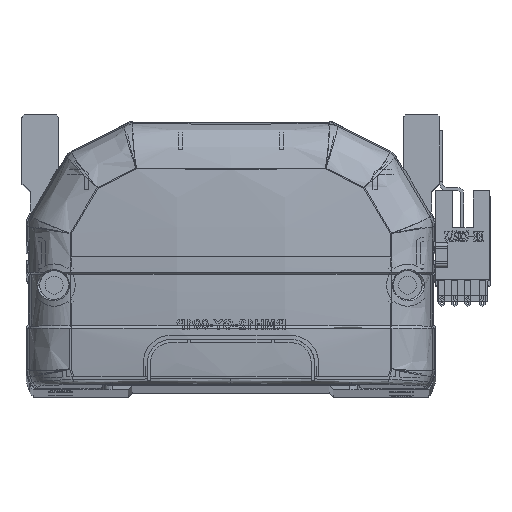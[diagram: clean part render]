
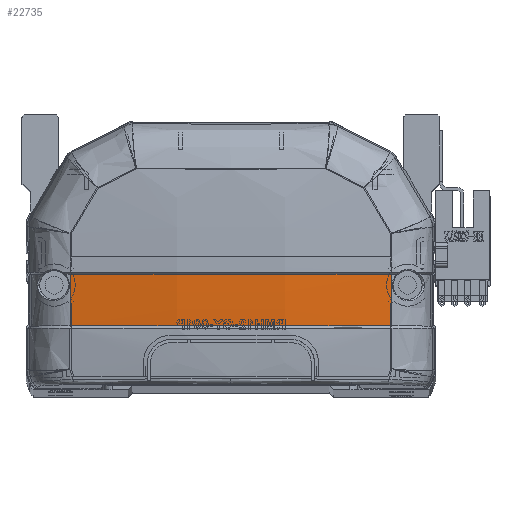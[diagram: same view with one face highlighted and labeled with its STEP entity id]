
A CAD part, top view. The second image highlights one B-rep face of the part: STEP entity #22735.
In plain terms, the highlighted free-form (B-spline) face has degree [3, 3] with [4, 4] control points.
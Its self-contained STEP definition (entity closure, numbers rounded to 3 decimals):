
#1398 = CARTESIAN_POINT ( 'NONE',  ( -39.966, 24.412, -6.306 ) ) ;
#1503 = CARTESIAN_POINT ( 'NONE',  ( 26.761, 15.83, -7.945 ) ) ;
#1705 = CARTESIAN_POINT ( 'NONE',  ( -13.598, 15.499, -10.032 ) ) ;
#1906 = CARTESIAN_POINT ( 'NONE',  ( 40.461, 15.757, -5.8 ) ) ;
#2100 = CARTESIAN_POINT ( 'NONE',  ( 40.461, 20.111, -6.066 ) ) ;
#2308 = CARTESIAN_POINT ( 'NONE',  ( 26.749, 28.706, -8.432 ) ) ;
#2479 = CARTESIAN_POINT ( 'NONE',  ( -33.365, 15.83, -6.848 ) ) ;
#2792 = ORIENTED_EDGE ( 'NONE', *, *, #7761, .T. ) ;
#5495 = VERTEX_POINT ( 'NONE', #23640 ) ;
#6283 = CARTESIAN_POINT ( 'NONE',  ( 13.598, 28.769, -10.535 ) ) ;
#6499 = CARTESIAN_POINT ( 'NONE',  ( -39.963, 28.706, -6.372 ) ) ;
#7075 = CARTESIAN_POINT ( 'NONE',  ( -23.389, 15.83, -7.947 ) ) ;
#7761 = EDGE_CURVE ( 'NONE', #5495, #50840, #17015, .T. ) ;
#7778 = CARTESIAN_POINT ( 'NONE',  ( 39.966, 24.413, -6.306 ) ) ;
#8843 = B_SPLINE_CURVE_WITH_KNOTS ( 'NONE', 3,
 ( #39260, #1503, #48559, #39668, #26291, #7075, #53809, #2479, #20810, #39468 ),
 .UNSPECIFIED., .F., .F.,
 ( 4, 2, 2, 2, 4 ),
 ( 0., 0.04, 0.06, 0.07, 0.08 ),
 .UNSPECIFIED. ) ;
#9646 = B_SPLINE_CURVE_WITH_KNOTS ( 'NONE', 3,
 ( #12233, #31404, #7778, #54103 ),
 .UNSPECIFIED., .F., .F.,
 ( 4, 4 ),
 ( 0., 1. ),
 .UNSPECIFIED. ) ;
#12114 = VERTEX_POINT ( 'NONE', #30049 ) ;
#12233 = CARTESIAN_POINT ( 'NONE',  ( 39.985, 15.83, -5.879 ) ) ;
#16456 = CARTESIAN_POINT ( 'NONE',  ( 13.598, 19.918, -10.302 ) ) ;
#17015 = B_SPLINE_CURVE_WITH_KNOTS ( 'NONE', 3,
 ( #19710, #1398, #47460, #19902 ),
 .UNSPECIFIED., .F., .F.,
 ( 4, 4 ),
 ( 0., 1. ),
 .UNSPECIFIED. ) ;
#17256 = ORIENTED_EDGE ( 'NONE', *, *, #34596, .T. ) ;
#19710 = CARTESIAN_POINT ( 'NONE',  ( -39.963, 28.706, -6.372 ) ) ;
#19902 = CARTESIAN_POINT ( 'NONE',  ( -39.985, 15.83, -5.879 ) ) ;
#20810 = CARTESIAN_POINT ( 'NONE',  ( -36.679, 15.83, -6.395 ) ) ;
#20821 = CARTESIAN_POINT ( 'NONE',  ( -13.598, 24.342, -10.47 ) ) ;
#22735 = ADVANCED_FACE ( 'NONE', ( #31101 ), #43789, .F. ) ;
#23473 = EDGE_LOOP ( 'NONE', ( #17256, #45405, #2792, #25475 ) ) ;
#23640 = CARTESIAN_POINT ( 'NONE',  ( -39.963, 28.706, -6.372 ) ) ;
#25295 = CARTESIAN_POINT ( 'NONE',  ( -40.461, 20.111, -6.066 ) ) ;
#25412 = CARTESIAN_POINT ( 'NONE',  ( 39.985, 15.83, -5.879 ) ) ;
#25475 = ORIENTED_EDGE ( 'NONE', *, *, #57704, .F. ) ;
#26291 = CARTESIAN_POINT ( 'NONE',  ( -13.384, 15.83, -8.724 ) ) ;
#28487 = VERTEX_POINT ( 'NONE', #25412 ) ;
#29941 = CARTESIAN_POINT ( 'NONE',  ( 13.375, 28.707, -9.468 ) ) ;
#30049 = CARTESIAN_POINT ( 'NONE',  ( 39.963, 28.706, -6.372 ) ) ;
#30137 = CARTESIAN_POINT ( 'NONE',  ( -40.461, 28.832, -6.296 ) ) ;
#31101 = FACE_OUTER_BOUND ( 'NONE', #23473, .T. ) ;
#31404 = CARTESIAN_POINT ( 'NONE',  ( 39.973, 20.12, -6.142 ) ) ;
#34081 = CARTESIAN_POINT ( 'NONE',  ( -39.985, 15.83, -5.879 ) ) ;
#34390 = CARTESIAN_POINT ( 'NONE',  ( 40.461, 24.47, -6.231 ) ) ;
#34596 = EDGE_CURVE ( 'NONE', #28487, #12114, #9646, .T. ) ;
#38664 = CARTESIAN_POINT ( 'NONE',  ( -40.461, 24.47, -6.231 ) ) ;
#38864 = CARTESIAN_POINT ( 'NONE',  ( 13.598, 15.499, -10.032 ) ) ;
#39066 = CARTESIAN_POINT ( 'NONE',  ( -40.461, 15.757, -5.8 ) ) ;
#39076 = CARTESIAN_POINT ( 'NONE',  ( -13.373, 28.707, -9.468 ) ) ;
#39260 = CARTESIAN_POINT ( 'NONE',  ( 39.985, 15.83, -5.879 ) ) ;
#39468 = CARTESIAN_POINT ( 'NONE',  ( -39.985, 15.83, -5.879 ) ) ;
#39668 = CARTESIAN_POINT ( 'NONE',  ( -6.692, 15.83, -8.984 ) ) ;
#43789 =( BOUNDED_SURFACE ( )  B_SPLINE_SURFACE ( 3, 3, ( 
 ( #1906, #2100, #34390, #53014 ),
 ( #38864, #16456, #57074, #6283 ),
 ( #1705, #48178, #20821, #53219 ),
 ( #39066, #25295, #38664, #30137 ) ),
 .UNSPECIFIED., .F., .F., .F. ) 
 B_SPLINE_SURFACE_WITH_KNOTS ( ( 4, 4 ),
 ( 4, 4 ),
 ( 0., 1. ),
 ( 0., 1. ),
 .UNSPECIFIED. ) 
 GEOMETRIC_REPRESENTATION_ITEM ( )  RATIONAL_B_SPLINE_SURFACE ( (
 ( 1., 1., 1., 1.),
 ( 0.992, 0.992, 0.992, 0.992),
 ( 0.992, 0.992, 0.992, 0.992),
 ( 1., 1., 1., 1.) ) ) 
 REPRESENTATION_ITEM ( '' )  SURFACE ( )  );
#44067 = B_SPLINE_CURVE_WITH_KNOTS ( 'NONE', 3,
 ( #6499, #52816, #39076, #29941, #2308, #58492 ),
 .UNSPECIFIED., .F., .F.,
 ( 4, 2, 4 ),
 ( 0., 0.5, 1. ),
 .UNSPECIFIED. ) ;
#45405 = ORIENTED_EDGE ( 'NONE', *, *, #55251, .F. ) ;
#47460 = CARTESIAN_POINT ( 'NONE',  ( -39.973, 20.118, -6.142 ) ) ;
#48178 = CARTESIAN_POINT ( 'NONE',  ( -13.598, 19.918, -10.302 ) ) ;
#48559 = CARTESIAN_POINT ( 'NONE',  ( 13.38, 15.83, -8.984 ) ) ;
#50840 = VERTEX_POINT ( 'NONE', #34081 ) ;
#52816 = CARTESIAN_POINT ( 'NONE',  ( -26.748, 28.706, -8.432 ) ) ;
#53014 = CARTESIAN_POINT ( 'NONE',  ( 40.461, 28.832, -6.296 ) ) ;
#53219 = CARTESIAN_POINT ( 'NONE',  ( -13.598, 28.769, -10.535 ) ) ;
#53809 = CARTESIAN_POINT ( 'NONE',  ( -26.721, 15.83, -7.624 ) ) ;
#54103 = CARTESIAN_POINT ( 'NONE',  ( 39.963, 28.706, -6.372 ) ) ;
#55251 = EDGE_CURVE ( 'NONE', #5495, #12114, #44067, .T. ) ;
#57074 = CARTESIAN_POINT ( 'NONE',  ( 13.598, 24.342, -10.47 ) ) ;
#57704 = EDGE_CURVE ( 'NONE', #28487, #50840, #8843, .T. ) ;
#58492 = CARTESIAN_POINT ( 'NONE',  ( 39.963, 28.706, -6.372 ) ) ;
